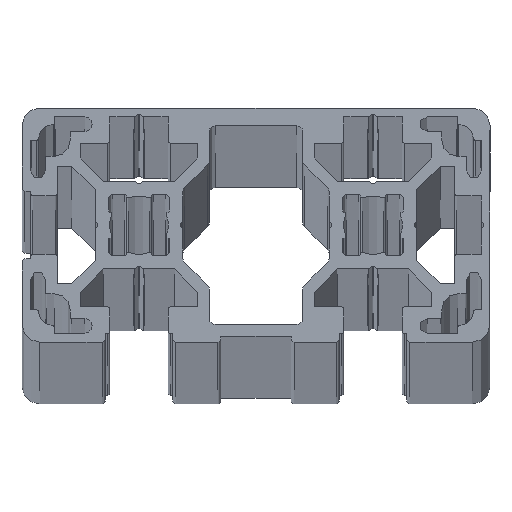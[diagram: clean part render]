
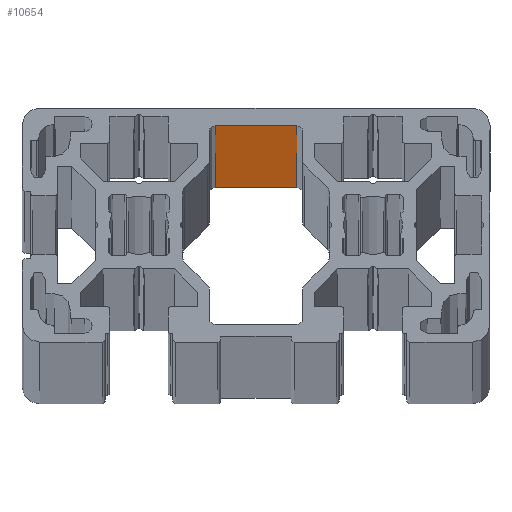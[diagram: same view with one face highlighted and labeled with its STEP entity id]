
A CAD part, top view. The second image highlights one B-rep face of the part: STEP entity #10654.
In plain terms, the highlighted planar face has unit normal (0, -1, 0).
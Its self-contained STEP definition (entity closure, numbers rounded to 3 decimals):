
#93 = ORIENTED_EDGE ( 'NONE', *, *, #9217, .F. ) ;
#406 = CARTESIAN_POINT ( 'NONE',  ( -7., 17., -6060. ) ) ;
#437 = PLANE ( 'NONE',  #614 ) ;
#614 = AXIS2_PLACEMENT_3D ( 'NONE', #9057, #6848, #5958 ) ;
#1466 = ORIENTED_EDGE ( 'NONE', *, *, #2891, .T. ) ;
#1511 = EDGE_CURVE ( 'NONE', #4548, #10613, #8125, .T. ) ;
#1571 = VECTOR ( 'NONE', #4544, 1000. ) ;
#2196 = FACE_OUTER_BOUND ( 'NONE', #9517, .T. ) ;
#2891 = EDGE_CURVE ( 'NONE', #5544, #4548, #4737, .T. ) ;
#3278 = VERTEX_POINT ( 'NONE', #12395 ) ;
#4394 = ORIENTED_EDGE ( 'NONE', *, *, #1511, .T. ) ;
#4538 = LINE ( 'NONE', #5475, #5204 ) ;
#4544 = DIRECTION ( 'NONE',  ( -1., 0., 0. ) ) ;
#4548 = VERTEX_POINT ( 'NONE', #11285 ) ;
#4737 = LINE ( 'NONE', #10230, #8911 ) ;
#5204 = VECTOR ( 'NONE', #11022, 1000. ) ;
#5475 = CARTESIAN_POINT ( 'NONE',  ( 7., 17., -6060. ) ) ;
#5544 = VERTEX_POINT ( 'NONE', #10022 ) ;
#5925 = VECTOR ( 'NONE', #11683, 1000. ) ;
#5958 = DIRECTION ( 'NONE',  ( 0., 0., 1. ) ) ;
#5998 = LINE ( 'NONE', #406, #5925 ) ;
#6302 = CARTESIAN_POINT ( 'NONE',  ( 7., 17., 0. ) ) ;
#6623 = DIRECTION ( 'NONE',  ( 0., 0., 1. ) ) ;
#6730 = EDGE_CURVE ( 'NONE', #3278, #10613, #5998, .T. ) ;
#6848 = DIRECTION ( 'NONE',  ( 0., 1., 0. ) ) ;
#7075 = ORIENTED_EDGE ( 'NONE', *, *, #6730, .F. ) ;
#8125 = LINE ( 'NONE', #6302, #1571 ) ;
#8911 = VECTOR ( 'NONE', #6623, 1000. ) ;
#9057 = CARTESIAN_POINT ( 'NONE',  ( 7., 17., -6060. ) ) ;
#9217 = EDGE_CURVE ( 'NONE', #5544, #3278, #4538, .T. ) ;
#9517 = EDGE_LOOP ( 'NONE', ( #4394, #7075, #93, #1466 ) ) ;
#10022 = CARTESIAN_POINT ( 'NONE',  ( 7., 17., -6060. ) ) ;
#10230 = CARTESIAN_POINT ( 'NONE',  ( 7., 17., -6060. ) ) ;
#10613 = VERTEX_POINT ( 'NONE', #11706 ) ;
#10654 = ADVANCED_FACE ( 'NONE', ( #2196 ), #437, .F. ) ;
#11022 = DIRECTION ( 'NONE',  ( -1., 0., 0. ) ) ;
#11285 = CARTESIAN_POINT ( 'NONE',  ( 7., 17., 0. ) ) ;
#11683 = DIRECTION ( 'NONE',  ( 0., 0., 1. ) ) ;
#11706 = CARTESIAN_POINT ( 'NONE',  ( -7., 17., 0. ) ) ;
#12395 = CARTESIAN_POINT ( 'NONE',  ( -7., 17., -6060. ) ) ;
